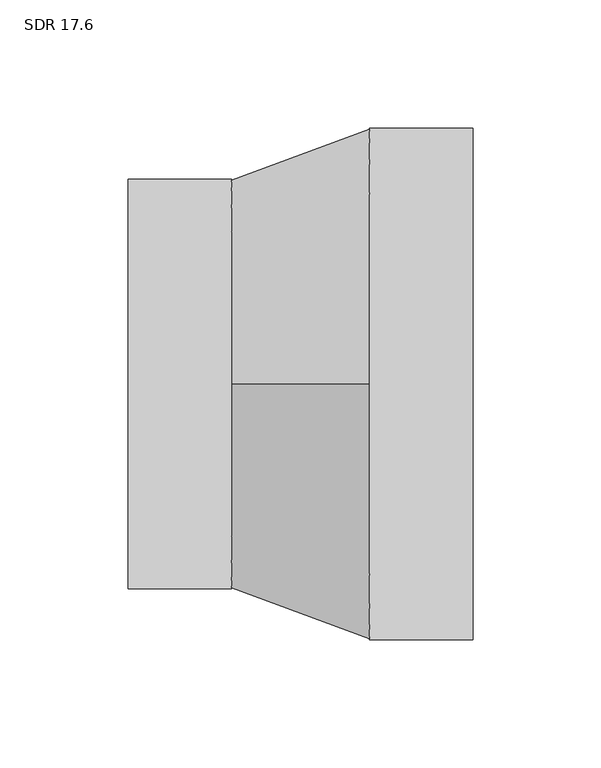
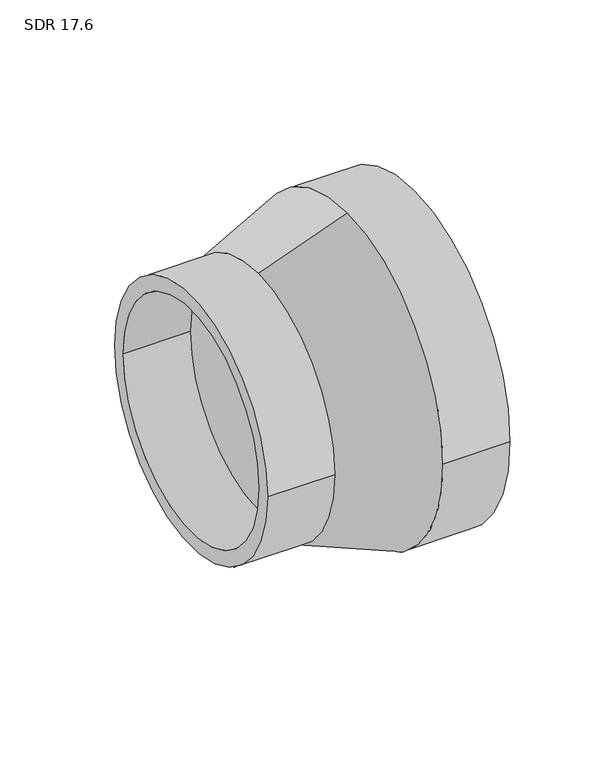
"""IFC4 building model written with IfcOpenShell, lengths in millimetres: pipe fitting geometry, Aquatherm - Reducing Coupling Combined - METRIC : SDR 17.6."""

from ifc_helpers import new_model, si_unit, frame, origin, place, context, project, spatial, polyline, circle_curve, source, transform, mapped, element, save
from ifc_brep_helpers import plane_surface, cylinder_surface, revolved_surface, advanced_brep


def sdr_17_6_5a6e1f84(model_context):
    return source(origin(), model_context, "Body", "AdvancedBrep", [
        advanced_brep(
        [(-67.437, -80.01, 0.0), (-67.437, 80.01, 0.0), (-67.437, -70.9179545, 0.0), (-67.437, 70.9179545, 0.0), (-26.9748, 70.9179545, 0.0), (-26.9748, 0.0, 70.9179545), (-26.9748, -70.9179545, 0.0), (-26.9748, 0.0, -70.9179545), (-26.9748, 80.01, 0.0), (-26.9748, 0.0, -80.01), (-26.9748, -80.01, 0.0), (-26.9748, 0.0, 80.01), (67.437, -99.949, 0.0), (67.437, 99.949, 0.0), (67.437, -88.5911591, 0.0), (67.437, 88.5911591, 0.0), (26.9748, -99.949, 0.0), (26.9748, 0.0, -99.949), (26.9748, 99.949, 0.0), (26.9748, 0.0, 99.949), (26.9748, -88.5911591, 0.0), (26.9748, 0.0, 88.5911591), (26.9748, 88.5911591, 0.0), (26.9748, 0.0, -88.5911591)],
        [
            (0, 1, circle_curve(frame((-67.437, 0.0, 0.0), z_axis=(-1.0, 0.0, 0.0), x_axis=(0.0, 1.0, 0.0)), 80.01)),
            (1, 0, circle_curve(frame((-67.437, 0.0, 0.0), z_axis=(-1.0, 0.0, 0.0), x_axis=(0.0, 1.0, 0.0)), 80.01)),
            (2, 3, circle_curve(frame((-67.437, 0.0, 0.0), z_axis=(1.0, 0.0, 0.0), x_axis=(0.0, 1.0, 0.0)), 70.9179545)),
            (3, 2, circle_curve(frame((-67.437, 0.0, 0.0), z_axis=(1.0, 0.0, 0.0), x_axis=(0.0, 1.0, 0.0)), 70.9179545)),
            (3, 4),
            (4, 5, circle_curve(frame((-26.9748, 0.0, 0.0), z_axis=(1.0, 0.0, 0.0), x_axis=(0.0, 1.0, 0.0)), 70.9179545)),
            (5, 6, circle_curve(frame((-26.9748, 0.0, 0.0), z_axis=(1.0, 0.0, 0.0), x_axis=(0.0, 1.0, 0.0)), 70.9179545)),
            (6, 2),
            (6, 7, circle_curve(frame((-26.9748, 0.0, 0.0), z_axis=(1.0, 0.0, 0.0), x_axis=(0.0, 1.0, 0.0)), 70.9179545)),
            (7, 4, circle_curve(frame((-26.9748, 0.0, 0.0), z_axis=(1.0, 0.0, 0.0), x_axis=(0.0, 1.0, 0.0)), 70.9179545)),
            (1, 8),
            (8, 9, circle_curve(frame((-26.9748, 0.0, 0.0), z_axis=(-1.0, 0.0, 0.0), x_axis=(0.0, 1.0, 0.0)), 80.01)),
            (9, 10, circle_curve(frame((-26.9748, 0.0, 0.0), z_axis=(-1.0, 0.0, 0.0), x_axis=(0.0, 1.0, 0.0)), 80.01)),
            (10, 0),
            (10, 11, circle_curve(frame((-26.9748, 0.0, 0.0), z_axis=(-1.0, 0.0, 0.0), x_axis=(0.0, 1.0, 0.0)), 80.01)),
            (11, 8, circle_curve(frame((-26.9748, 0.0, 0.0), z_axis=(-1.0, 0.0, 0.0), x_axis=(0.0, 1.0, 0.0)), 80.01)),
            (12, 13, circle_curve(frame((67.437, 0.0, 0.0), z_axis=(1.0, 0.0, 0.0), x_axis=(0.0, 1.0, 0.0)), 99.949)),
            (13, 12, circle_curve(frame((67.437, 0.0, 0.0), z_axis=(1.0, 0.0, 0.0), x_axis=(0.0, 1.0, 0.0)), 99.949)),
            (14, 15, circle_curve(frame((67.437, 0.0, 0.0), z_axis=(-1.0, 0.0, 0.0), x_axis=(0.0, 1.0, 0.0)), 88.5911591)),
            (15, 14, circle_curve(frame((67.437, 0.0, 0.0), z_axis=(-1.0, 0.0, 0.0), x_axis=(0.0, 1.0, 0.0)), 88.5911591)),
            (12, 16),
            (16, 17, circle_curve(frame((26.9748, 0.0, 0.0), z_axis=(1.0, 0.0, 0.0), x_axis=(0.0, 1.0, 0.0)), 99.949)),
            (17, 18, circle_curve(frame((26.9748, 0.0, 0.0), z_axis=(1.0, 0.0, 0.0), x_axis=(0.0, 1.0, 0.0)), 99.949)),
            (18, 13),
            (18, 19, circle_curve(frame((26.9748, 0.0, 0.0), z_axis=(1.0, 0.0, 0.0), x_axis=(0.0, 1.0, 0.0)), 99.949)),
            (19, 16, circle_curve(frame((26.9748, 0.0, 0.0), z_axis=(1.0, 0.0, 0.0), x_axis=(0.0, 1.0, 0.0)), 99.949)),
            (14, 20),
            (20, 21, circle_curve(frame((26.9748, 0.0, 0.0), z_axis=(-1.0, 0.0, 0.0), x_axis=(0.0, 1.0, 0.0)), 88.5911591)),
            (21, 22, circle_curve(frame((26.9748, 0.0, 0.0), z_axis=(-1.0, 0.0, 0.0), x_axis=(0.0, 1.0, 0.0)), 88.5911591)),
            (22, 15),
            (22, 23, circle_curve(frame((26.9748, 0.0, 0.0), z_axis=(-1.0, 0.0, 0.0), x_axis=(0.0, 1.0, 0.0)), 88.5911591)),
            (23, 20, circle_curve(frame((26.9748, 0.0, 0.0), z_axis=(-1.0, 0.0, 0.0), x_axis=(0.0, 1.0, 0.0)), 88.5911591)),
            (11, 19),
            (17, 9),
            (21, 5),
            (7, 23),
        ],
        [
            plane_surface(frame((-67.437, 70.9179545, 0.0), z_axis=(-1.0, 0.0, 0.0), x_axis=(0.0, 0.0, 1.0))),
            revolved_surface(polyline([(-67.437, 70.9179545, 0.0), (-26.974800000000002, 70.9179545, 0.0)]), (-67.437, 0.0, 0.0), (-1.0, 0.0, 0.0)),
            cylinder_surface(frame((0.0, 0.0, 0.0), z_axis=(1.0, 0.0, 0.0), x_axis=(0.0, 1.0, 0.0)), 80.01),
            plane_surface(frame((67.437, 99.949, 0.0), z_axis=(1.0, 0.0, 0.0), x_axis=(0.0, 0.0, 1.0))),
            cylinder_surface(frame((26.9748, 0.0, 0.0), z_axis=(1.0, 0.0, 0.0), x_axis=(0.0, 1.0, 0.0)), 99.949),
            revolved_surface(polyline([(26.9748, 88.5911591, 0.0), (67.437, 88.5911591, 0.0)]), (0.0, 0.0, 0.0), (-1.0, 0.0, 0.0)),
            revolved_surface(polyline([(26.9748, 0.0, 99.949), (-26.9748, 0.0, 80.01)]), (-642.6965384, 0.0, 0.0), (-1.0, 0.0, 0.0)),
            revolved_surface(polyline([(-26.9748, 0.0, 70.9179545), (26.9748, 0.0, 88.5911591)]), (-642.6965384, 0.0, 0.0), (-1.0, 0.0, 0.0)),
        ],
        [
            (0, [[1, 2], [3, 4]]),
            (1, [[-4, 5, 6, 7, 8]]),
            (1, [[-3, -8, 9, 10, -5]]),
            (2, [[-2, 11, 12, 13, 14]]),
            (2, [[-1, -14, 15, 16, -11]]),
            (3, [[17, 18], [19, 20]]),
            (4, [[-17, 21, 22, 23, 24]]),
            (4, [[-18, -24, 25, 26, -21]]),
            (5, [[-19, 27, 28, 29, 30]]),
            (5, [[-20, -30, 31, 32, -27]]),
            (6, [[33, -25, -23, 34, -12, -16]]),
            (6, [[-33, -15, -13, -34, -22, -26]]),
            (7, [[35, -6, -10, 36, -31, -29]]),
            (7, [[-35, -28, -32, -36, -9, -7]]),
        ],
    ),
    ])


if __name__ == "__main__":
    model = new_model("IFC4")
    model_context = context("Model", 3, world=origin())
    ifc_project = project(units=[si_unit("LENGTHUNIT", "METRE", prefix="MILLI")], contexts=[model_context])
    site = spatial("IfcSite", under=ifc_project)
    building = spatial("IfcBuilding", under=site)
    placement = place(None, origin())
    sdr_17_6_shape = sdr_17_6_5a6e1f84(model_context)
    element("IfcPipeFitting", 1, ObjectType="Aquatherm - Reducing Coupling Combined - METRIC : SDR 17.6", at=placement, inside=building, context=model_context, shape_type="MappedRepresentation", body=[
        mapped(sdr_17_6_shape, transform((0.0, 0.0, 0.0), x_axis=(1.0, 0.0, 0.0), y_axis=(0.0, 1.0, 0.0), z_axis=(0.0, 0.0, 1.0))),
    ])
    save(model, "model.ifc")
